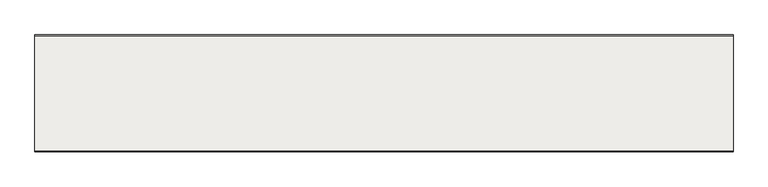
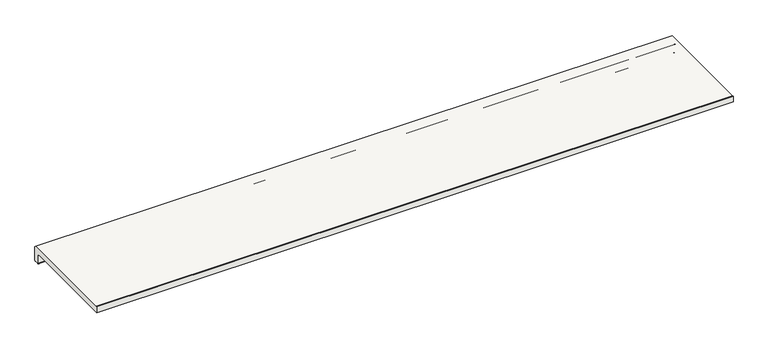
"""IFC4 building model written with IfcOpenShell, lengths in millimetres: slab geometry, ROSA GRES_L62 : Pieza L62_Tresor_Java_Anti-Slip."""

from ifc_helpers import new_model, si_unit, point, frame, frame_2d, origin, place, context, project, spatial, polyline, circle_curve, trimmed, segment, composite_curve, outline, extrude, source, transform, mapped, element, save


def slab_a22765c6(model_context):
    return source(origin(), model_context, "Body", "SweptSolid", [
        extrude(outline(composite_curve([segment(trimmed(circle_curve(frame_2d((-12.1001991, -35.1001991)), 1.8998009), [point((-12.1001991, -37.0))], [point((-14.0, -35.1001991))], False, "CARTESIAN"), True, "CONTINUOUS"), segment(polyline([(-14.0, -35.1001991), (-14.0, -16.5836242)]), True, "CONTINUOUS"), segment(trimmed(circle_curve(frame_2d((-16.6422322, -16.5836242)), 2.6422322), [point((-14.0, -16.5836242))], [point((-16.6422322, -13.9413919))], True, "CARTESIAN"), True, "CONTINUOUS"), segment(polyline([(-16.6422322, -13.9413919), (-250.0, -13.9413919), (-250.0, -0.0899281), (-247.5, 0.0), (-2.5, 0.0), (0.0, -2.5), (0.0, -34.5)]), True, "CONTINUOUS"), segment(trimmed(circle_curve(frame_2d((-2.5, -34.5)), 2.5), [point((0.0, -34.5))], [point((-2.5, -37.0))], False, "CARTESIAN"), True, "CONTINUOUS"), segment(polyline([(-2.5, -37.0), (-5.422949, -37.0)]), True, "CONTINUOUS"), segment(trimmed(circle_curve(frame_2d((-7.4142134, -37.0)), 1.9912643), [point((-5.422949, -37.0))], [point((-9.4054777, -37.0))], True, "CARTESIAN"), True, "CONTINUOUS"), segment(polyline([(-9.4054777, -37.0), (-12.1001991, -37.0)]), True, "CONTINUOUS")], self_intersect=False)), frame((0.0, 0.0, 0.0), z_axis=(1.0, 0.0, 0.0), x_axis=(0.0, 1.0, 0.0)), (0.0, 0.0, 1.0), 1490.7205139),
    ])


if __name__ == "__main__":
    model = new_model("IFC4")
    model_context = context("Model", 3, world=origin())
    ifc_project = project(units=[si_unit("LENGTHUNIT", "METRE", prefix="MILLI")], contexts=[model_context])
    site = spatial("IfcSite", under=ifc_project)
    building = spatial("IfcBuilding", under=site)
    placement = place(None, origin())
    slab_shape = slab_a22765c6(model_context)
    element("IfcSlab", 1, ObjectType="ROSA GRES_L62 : Pieza L62_Tresor_Java_Anti-Slip", at=placement, inside=building, context=model_context, shape_type="MappedRepresentation", body=[
        mapped(slab_shape, transform((0.0, 0.0, 0.0), x_axis=(1.0, 0.0, 0.0), y_axis=(0.0, 1.0, 0.0), z_axis=(0.0, 0.0, 1.0))),
    ])
    save(model, "model.ifc")
